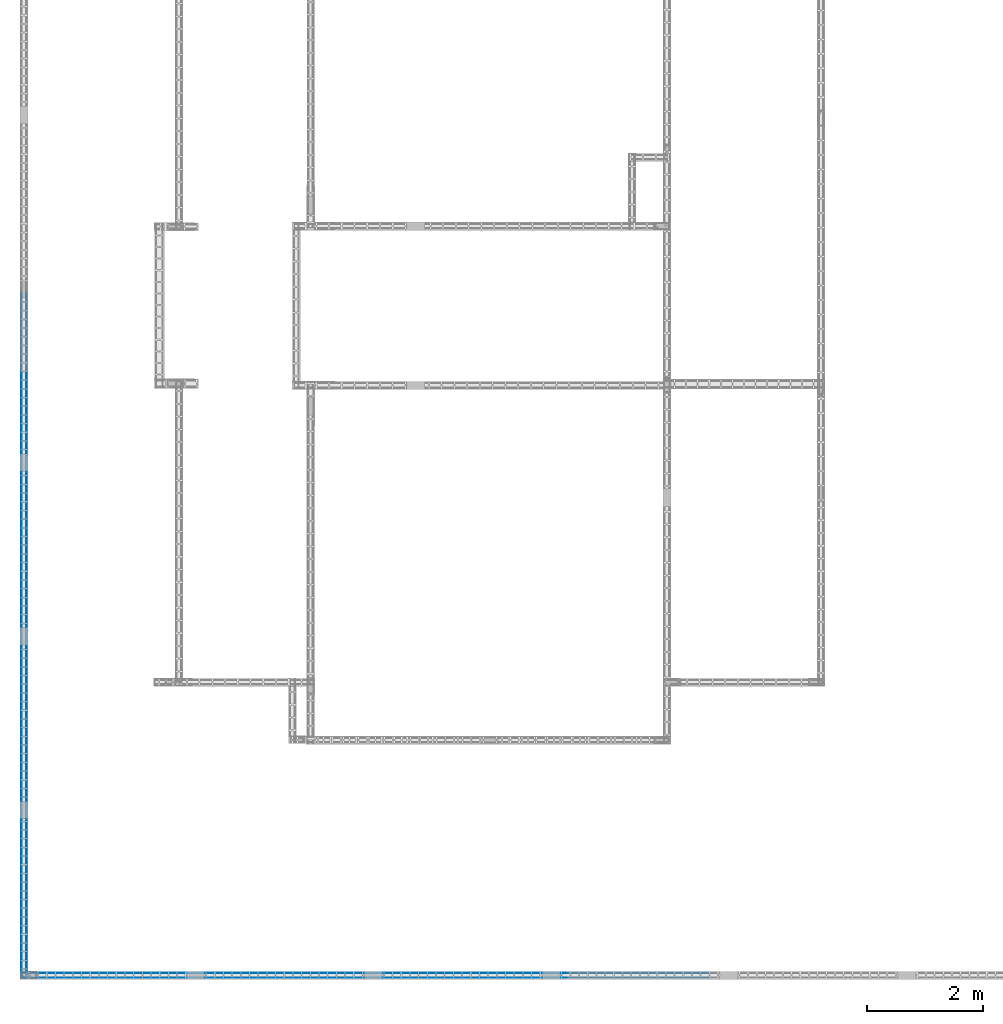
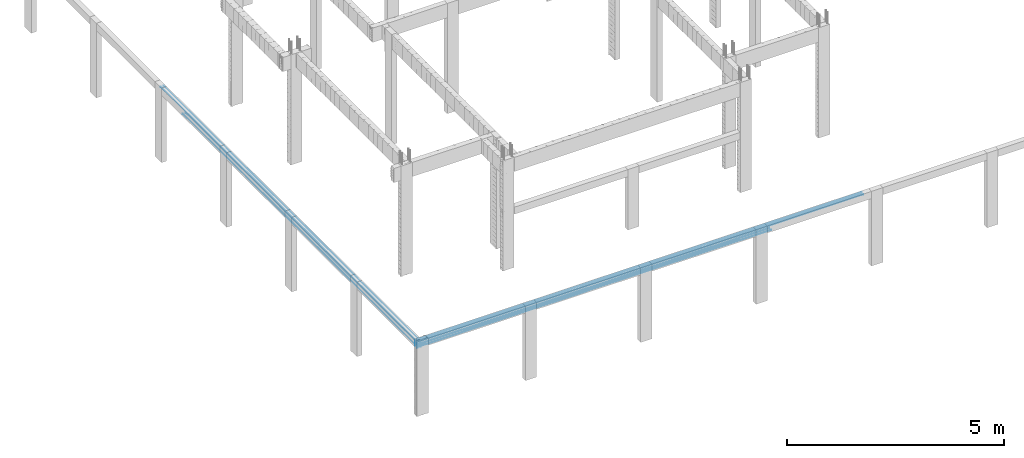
# One storey, part 8 of 236: 8 reinforcing bars.
"""IFC4 building model written with IfcOpenShell, lengths in centimetres."""

from ifc_helpers import new_model, entity, si_unit, derived_unit, frame, origin_with_axes, place, context, project, spatial, element, save


model = new_model("IFC4")

# Units and contexts
model_context = context("Model", 3, precision=1e-05, world=origin_with_axes(), identifier="Body")
ifc_project = project(units=[si_unit("LENGTHUNIT", "METRE", prefix="CENTI"), si_unit("VOLUMEUNIT", "CUBIC_METRE"), si_unit("AREAUNIT", "SQUARE_METRE"), si_unit("POWERUNIT", "WATT"), si_unit("LUMINOUSFLUXUNIT", "LUMEN"), si_unit("ELECTRICCURRENTUNIT", "AMPERE"), si_unit("PRESSUREUNIT", "PASCAL", prefix="KILO"), si_unit("MASSUNIT", "GRAM", prefix="KILO"), si_unit("PLANEANGLEUNIT", "RADIAN"), derived_unit("VOLUMETRICFLOWRATEUNIT", [(si_unit("LENGTHUNIT", "METRE"), 3), (si_unit("TIMEUNIT", "SECOND"), -1)])], contexts=[model_context])

# Site, building, storey
site_placement = place(None, frame((-4000.0, 0.0, 0.0), z_axis=(0.0, 0.0, 1.0), x_axis=(1.0, 0.0, 0.0)))
site = spatial("IfcSite", under=ifc_project, at=site_placement, Name="PADRÃO")
building_placement = place(site_placement, frame((0.0, 0.0, -14.0)))
building = spatial("IfcBuilding", under=site, at=building_placement, Name="CRECHE PRÉ-ESCOLA TIPO 2")
placement_1 = place(building_placement, origin_with_axes())
placement_2 = place(placement_1, frame((0.0, 0.0, 30.0), z_axis=(0.0, 0.0, 1.0), x_axis=(1.0, 0.0, 0.0)))
storey_placement = place(placement_2, frame((0.0, 0.0, 310.0), z_axis=(0.0, 0.0, 1.0), x_axis=(1.0, 0.0, 0.0)))
storey = spatial("IfcBuildingStorey", under=building, at=storey_placement, Name="TERREO", CompositionType="ELEMENT", Elevation=326.0)

# Reinforcing bars
for number, where, z_axis, x_axis, name in (
    (1, (474.342920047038, 4.9, -116.7), (0.0, 0.0, 1.0), (1.0, 0.0, 0.0), "V323 - Longitudinal inferior"),
    (2, (474.342920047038, 13.1, -116.7), (0.0, 0.0, 1.0), (1.0, 0.0, 0.0), "V323 - Longitudinal inferior"),
):
    element("IfcReinforcingBar", number, at=place(storey_placement, frame(where, z_axis=z_axis, x_axis=x_axis)), inside=storey, Name=name, BarLength=0.0, CrossSectionArea=5.0265482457e-05, NominalDiameter=0.8, PredefinedType="MAIN", context=model_context, shape_type="AdvancedSweptSolid", body=[
        entity("IfcSweptDiskSolid", entity("IfcCompositeCurve", [entity("IfcCompositeCurveSegment", "CONTINUOUS", True, entity("IfcPolyline", [entity("IfcCartesianPoint", [-470.842920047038, 0.0, -0.4]), entity("IfcCartesianPoint", [470.842920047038, 0.0, -0.4])]))], False), 0.4),
    ])
for number, where, z_axis, x_axis, name in (
    (3, (596.962376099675, 4.9, -102.496249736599), (0.0, 0.0, 1.0), (1.0, 0.0, 0.0), "V323 - Longitudinal superior"),
    (4, (596.962376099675, 13.1, -102.496249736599), (0.0, 0.0, 1.0), (1.0, 0.0, 0.0), "V323 - Longitudinal superior"),
):
    element("IfcReinforcingBar", number, at=place(storey_placement, frame(where, z_axis=z_axis, x_axis=x_axis)), inside=storey, Name=name, BarLength=0.0, CrossSectionArea=5.0265482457e-05, NominalDiameter=0.8, PredefinedType="MAIN", context=model_context, shape_type="AdvancedSweptSolid", body=[
        entity("IfcSweptDiskSolid", entity("IfcCompositeCurve", [entity("IfcCompositeCurveSegment", "CONTINUOUS", True, entity("IfcPolyline", [entity("IfcCartesianPoint", [-593.062376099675, 0.0, -13.4752478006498]), entity("IfcCartesianPoint", [-593.062376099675, 0.0, -0.403750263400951])])), entity("IfcCompositeCurveSegment", "CONTINUOUS", True, entity("IfcPolyline", [entity("IfcCartesianPoint", [-593.062376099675, 0.0, -0.403750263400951]), entity("IfcCartesianPoint", [593.466126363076, 0.0, -0.403750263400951])]))], False), 0.4),
    ])
for number, where, z_axis, x_axis, name in (
    (5, (4.4, 545.092920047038, -116.7), (0.0, 0.0, 1.0), (1.0, 0.0, 0.0), "V324 - Longitudinal inferior"),
    (6, (12.6, 545.092920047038, -116.7), (0.0, 0.0, 1.0), (1.0, 0.0, 0.0), "V324 - Longitudinal inferior"),
):
    element("IfcReinforcingBar", number, at=place(storey_placement, frame(where, z_axis=z_axis, x_axis=x_axis)), inside=storey, Name=name, BarLength=0.0, CrossSectionArea=5.0265482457e-05, NominalDiameter=0.8, PredefinedType="MAIN", context=model_context, shape_type="AdvancedSweptSolid", body=[
        entity("IfcSweptDiskSolid", entity("IfcCompositeCurve", [entity("IfcCompositeCurveSegment", "CONTINUOUS", True, entity("IfcPolyline", [entity("IfcCartesianPoint", [0.0, -541.092920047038, -0.4]), entity("IfcCartesianPoint", [0.0, 541.092920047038, -0.4])]))], False), 0.4),
    ])
for number, where, z_axis, x_axis, name in (
    (7, (12.6, 595.992309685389, -102.496249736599), (0.0, 0.0, 1.0), (1.0, 0.0, 0.0), "V324 - Longitudinal superior"),
    (8, (4.4, 595.992309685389, -102.496249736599), (0.0, 0.0, 1.0), (1.0, 0.0, 0.0), "V324 - Longitudinal superior"),
):
    element("IfcReinforcingBar", number, at=place(storey_placement, frame(where, z_axis=z_axis, x_axis=x_axis)), inside=storey, Name=name, BarLength=0.0, CrossSectionArea=5.0265482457e-05, NominalDiameter=0.8, PredefinedType="MAIN", context=model_context, shape_type="AdvancedSweptSolid", body=[
        entity("IfcSweptDiskSolid", entity("IfcCompositeCurve", [entity("IfcCompositeCurveSegment", "CONTINUOUS", True, entity("IfcPolyline", [entity("IfcCartesianPoint", [0.0, -591.592309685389, -16.4153806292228]), entity("IfcCartesianPoint", [0.0, -591.592309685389, -0.403750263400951])])), entity("IfcCompositeCurveSegment", "CONTINUOUS", True, entity("IfcPolyline", [entity("IfcCartesianPoint", [0.0, -591.592309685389, -0.403750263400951]), entity("IfcCartesianPoint", [0.0, 591.996059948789, -0.403750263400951])]))], False), 0.4),
    ])

save(model, "model.ifc")
